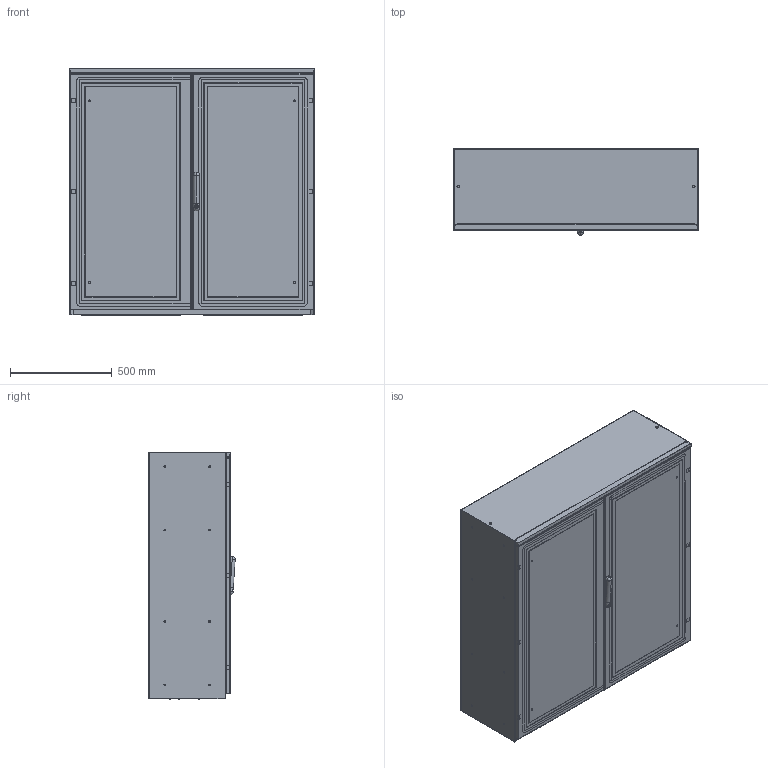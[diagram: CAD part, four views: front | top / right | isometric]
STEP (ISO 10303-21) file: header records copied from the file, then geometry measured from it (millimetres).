
FILE_DESCRIPTION (( 'STEP AP203' ), '1' );
FILE_NAME ('ECOMP12-1240X.STEP', '2021-03-16T07:38:31', ( '' ), ( '' ), 'SwSTEP 2.0', 'SolidWorks 2019', '' );
FILE_SCHEMA (( 'CONFIG_CONTROL_DESIGN' ));
Length unit declared in the file: millimetre
Products named in the file (11): AR_ECOMP_inox_struttura_1200x1200x0400; AR_ECOMP_inox_tegolino_0600x0100; AR_ECOMP_inox_montaggio_porta_IB_1.5_1200x1200_ANT_DX; AR_ECOMP_inox_maniglia; AR_ECOMP_inox_tegolino_0600x0050; AR_ECOMP_inox_Porta_CB_1.5_1200x1200_ANT_DX; ECOMP12-1240X; AR_ECOMP_inox_assieme_maniglia; AR_ECOMP_inox_inserto_maniglia_Doppia_aletta; AR_ECOMP_inox_piastra_interna_1200x1200; AR_ECOMP_inox_Porta_IB_1.5_1200x1200_ANT
Assembly tree (14 placements, depth 4):
  ECOMP12-1240X
    AR_ECOMP_inox_struttura_1200x1200x0400
    AR_ECOMP_inox_montaggio_porta_IB_1.5_1200x1200_ANT_DX
      AR_ECOMP_inox_Porta_IB_1.5_1200x1200_ANT
      AR_ECOMP_inox_assieme_maniglia
        AR_ECOMP_inox_maniglia
        AR_ECOMP_inox_inserto_maniglia_Doppia_aletta
    AR_ECOMP_inox_Porta_CB_1.5_1200x1200_ANT_DX
    AR_ECOMP_inox_piastra_interna_1200x1200
    AR_ECOMP_inox_tegolino_0600x0050  x2
    AR_ECOMP_inox_tegolino_0600x0100  x4
Bounding box: 1200 x 423.98 x 1211.48 mm (x, y, z)
Volume: 12309759.4 mm3; surface area: 14646533.2 mm2
Topology: 12 solids, 12 shells, 1980 faces, 5203 edges, 3310 vertices
Faces by surface type: plane 982, cylinder 949, torus 16, bspline 15, sphere 14, cone 4
Entity records: 57811 total; most frequent: CARTESIAN_POINT 11202, DIRECTION 9734, ORIENTED_EDGE 9194, EDGE_CURVE 4597, AXIS2_PLACEMENT_3D 3507, VERTEX_POINT 2990, LINE 2720, VECTOR 2720
